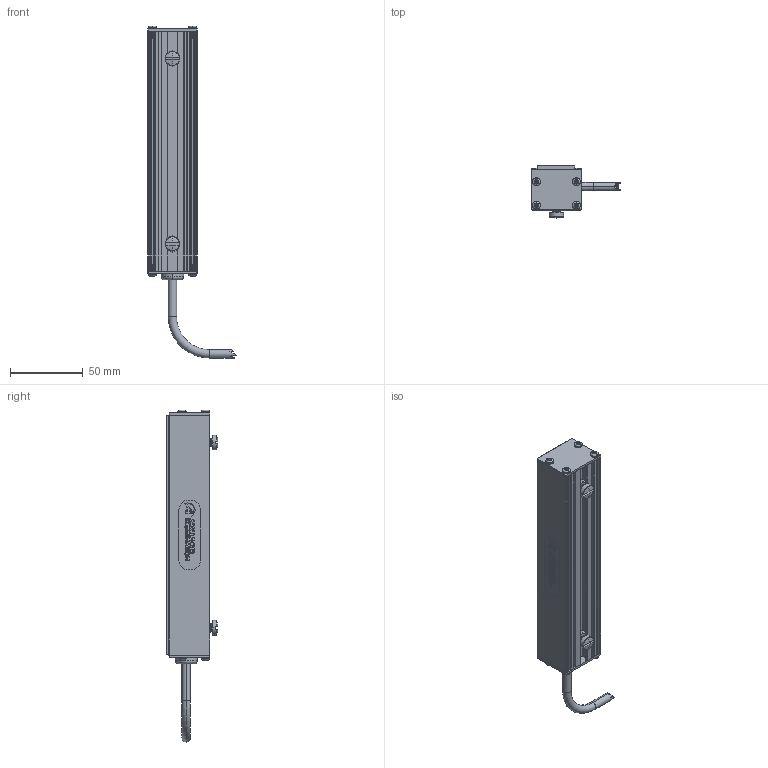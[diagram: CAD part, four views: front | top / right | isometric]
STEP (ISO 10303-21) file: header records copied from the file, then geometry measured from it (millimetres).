
FILE_DESCRIPTION (( 'STEP AP214' ), '1' );
FILE_NAME ('BL193_BL19306.stp', '2021-07-13T18:05:35', ( '' ), ( '' ), 'SwSTEP 2.0', 'SolidWorks 2018', '' );
FILE_SCHEMA (( 'AUTOMOTIVE_DESIGN' ));
Length unit declared in the file: inch
Products named in the file (13): 091053; HN-M6_90592A016; 193-01-006-XX_193-01-006-06; 116-02-007; 116-02-006; 193-01-001-XX_193-01-001-06; BL193_BL19306; 093145_93701A253; 1157 (no strap); 093470_DEFAULT; 092408_TRUNCATED; CHM6x8_91460A312
Assembly tree (23 placements, depth 3):
  BL193_BL19306
    193-01-006-XX_193-01-006-06
    093470_DEFAULT  x2
    1157 (no strap)
    116-02-007
    093145_93701A253  x8
    HN-M6_90592A016  x2
    193-01-001-XX_193-01-001-06
    116-02-006
    091053  x2
      091053
    CHM6x8_91460A312  x2
    092408_TRUNCATED
Bounding box: 60.69 x 35.42 x 227.63 mm (x, y, z)
Volume: 74748.8 mm3; surface area: 69075.8 mm2
Topology: 30 solids, 30 shells, 1882 faces, 4906 edges, 3091 vertices
Faces by surface type: cylinder 851, plane 577, cone 279, bspline 108, torus 59, sphere 8
Entity records: 32805 total; most frequent: CARTESIAN_POINT 10714, ORIENTED_EDGE 3974, DIRECTION 3518, EDGE_CURVE 1987, VERTEX_POINT 1286, AXIS2_PLACEMENT_3D 1194, LINE 1130, VECTOR 1130
